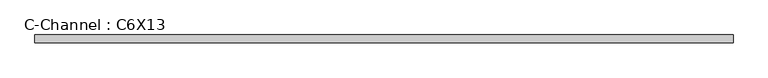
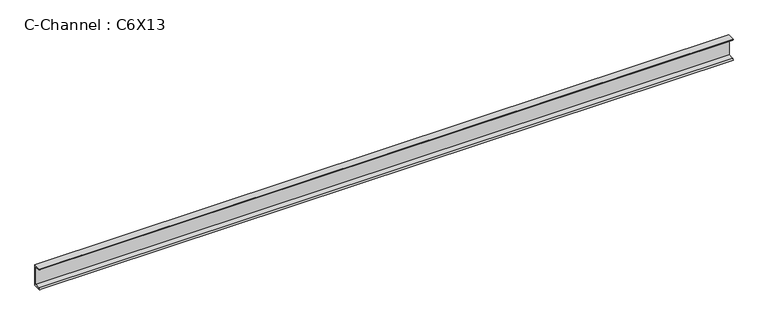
"""IFC4 building model written with IfcOpenShell, lengths in millimetres: beam geometry, C-Channel : C6X13."""

from ifc_helpers import new_model, si_unit, point, frame, frame_2d, origin, place, context, project, spatial, polyline, circle_curve, trimmed, segment, composite_curve, outline, extrude, source, transform, mapped, element, save


def c_channel_c6x13_f7c1ed2d(model_context):
    return source(origin(), model_context, "Body", "SweptSolid", [
        extrude(outline(composite_curve([segment(polyline([(13.0556, 76.2), (13.0556, -76.2), (-41.8084, -76.2)]), True, "CONTINUOUS"), segment(trimmed(circle_curve(frame_2d((-33.0962, -76.2)), 8.7122), [point((-41.8084, -76.2))], [point((-33.0962, -67.4878))], False, "CARTESIAN"), True, "CONTINUOUS"), segment(polyline([(-33.0962, -67.4878), (1.9558, -61.9361086), (1.9558, 61.9361086), (-33.0962, 67.4878)]), True, "CONTINUOUS"), segment(trimmed(circle_curve(frame_2d((-33.0962, 76.2)), 8.7122), [point((-33.0962, 67.4878))], [point((-41.8084, 76.2))], False, "CARTESIAN"), True, "CONTINUOUS"), segment(polyline([(-41.8084, 76.2), (13.0556, 76.2)]), True, "CONTINUOUS")], self_intersect=False)), frame((-2415.6661713, 0.0, 0.0), z_axis=(1.0, 0.0, 0.0), x_axis=(0.0, 1.0, 0.0)), (0.0, 0.0, 1.0), 4831.3371053),
    ])


if __name__ == "__main__":
    model = new_model("IFC4")
    model_context = context("Model", 3, world=origin())
    ifc_project = project(units=[si_unit("LENGTHUNIT", "METRE", prefix="MILLI")], contexts=[model_context])
    site = spatial("IfcSite", under=ifc_project)
    building = spatial("IfcBuilding", under=site)
    placement = place(None, origin())
    c_channel_c6x13_shape = c_channel_c6x13_f7c1ed2d(model_context)
    element("IfcBeam", 1, ObjectType="C-Channel : C6X13", at=placement, inside=building, context=model_context, shape_type="MappedRepresentation", body=[
        mapped(c_channel_c6x13_shape, transform((0.0, 0.0, 0.0), x_axis=(1.0, 0.0, 0.0), y_axis=(0.0, 1.0, 0.0), z_axis=(0.0, 0.0, 1.0))),
    ])
    save(model, "model.ifc")
